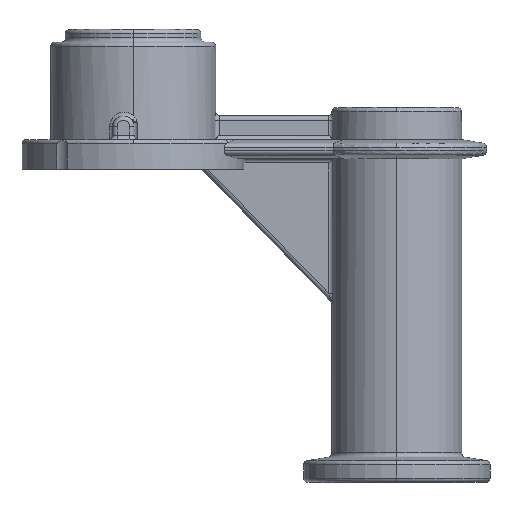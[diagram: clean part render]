
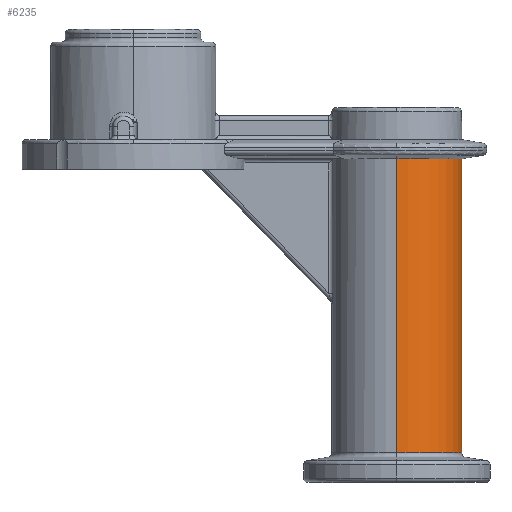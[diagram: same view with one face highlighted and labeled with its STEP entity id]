
A CAD part, top view. The second image highlights one B-rep face of the part: STEP entity #6235.
In plain terms, the highlighted cylindrical face has radius 15.303 mm (diameter 30.607 mm), a partial arc.
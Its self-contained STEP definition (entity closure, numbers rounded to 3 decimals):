
#56 = CARTESIAN_POINT ( 'NONE',  ( 4.703, 71.39, -14.567 ) ) ;
#505 = CARTESIAN_POINT ( 'NONE',  ( 1.86, 69.901, -15.197 ) ) ;
#534 = CARTESIAN_POINT ( 'NONE',  ( 3.767, 70.735, -14.834 ) ) ;
#568 = CARTESIAN_POINT ( 'NONE',  ( 7.707, 76.418, -13.221 ) ) ;
#723 = DIRECTION ( 'NONE',  ( 0., 1., 0. ) ) ;
#953 = CARTESIAN_POINT ( 'NONE',  ( 0., 69.667, -15.304 ) ) ;
#972 = CIRCLE ( 'NONE', #2219, 15.304 ) ;
#1194 = VECTOR ( 'NONE', #3623, 1000. ) ;
#1354 = CARTESIAN_POINT ( 'NONE',  ( 0., 0., 0. ) ) ;
#1388 = VERTEX_POINT ( 'NONE', #4193 ) ;
#1441 = VECTOR ( 'NONE', #5112, 1000. ) ;
#1505 = CARTESIAN_POINT ( 'NONE',  ( 3.161, 70.404, -14.975 ) ) ;
#1595 = CARTESIAN_POINT ( 'NONE',  ( 0., 69.667, -15.304 ) ) ;
#1889 = ORIENTED_EDGE ( 'NONE', *, *, #3698, .T. ) ;
#1894 = DIRECTION ( 'NONE',  ( 0., -1., 0. ) ) ;
#1936 = B_SPLINE_CURVE_WITH_KNOTS ( 'NONE', 3,
 ( #1595, #3561, #2959, #3906, #4894, #505, #5856, #5894, #1505, #3020, #534, #4454, #56, #4001, #3972, #4958, #3055, #568 ),
 .UNSPECIFIED., .F., .F.,
 ( 4, 2, 2, 2, 2, 2, 2, 2, 4 ),
 ( 0.011, 0.012, 0.013, 0.014, 0.015, 0.016, 0.017, 0.02, 0.023 ),
 .UNSPECIFIED. ) ;
#2053 = AXIS2_PLACEMENT_3D ( 'NONE', #1354, #1894, #2807 ) ;
#2056 = CARTESIAN_POINT ( 'NONE',  ( 0., 0., 15.304 ) ) ;
#2181 = LINE ( 'NONE', #2056, #1441 ) ;
#2219 = AXIS2_PLACEMENT_3D ( 'NONE', #2324, #5307, #3401 ) ;
#2324 = CARTESIAN_POINT ( 'NONE',  ( 0., 76.418, 0. ) ) ;
#2661 = VERTEX_POINT ( 'NONE', #3612 ) ;
#2807 = DIRECTION ( 'NONE',  ( 0., 0., -1. ) ) ;
#2837 = AXIS2_PLACEMENT_3D ( 'NONE', #5527, #723, #6079 ) ;
#2893 = ORIENTED_EDGE ( 'NONE', *, *, #4405, .F. ) ;
#2959 = CARTESIAN_POINT ( 'NONE',  ( 0.472, 69.679, -15.298 ) ) ;
#3000 = ORIENTED_EDGE ( 'NONE', *, *, #4625, .T. ) ;
#3020 = CARTESIAN_POINT ( 'NONE',  ( 3.569, 70.619, -14.883 ) ) ;
#3055 = CARTESIAN_POINT ( 'NONE',  ( 7.498, 75.501, -13.343 ) ) ;
#3205 = ORIENTED_EDGE ( 'NONE', *, *, #4723, .F. ) ;
#3401 = DIRECTION ( 'NONE',  ( 0., 0., 1. ) ) ;
#3561 = CARTESIAN_POINT ( 'NONE',  ( 0.235, 69.667, -15.304 ) ) ;
#3588 = CARTESIAN_POINT ( 'NONE',  ( 0., 0., -15.304 ) ) ;
#3612 = CARTESIAN_POINT ( 'NONE',  ( 0., 76.418, 15.304 ) ) ;
#3623 = DIRECTION ( 'NONE',  ( 0., -1., 0. ) ) ;
#3654 = EDGE_LOOP ( 'NONE', ( #2893, #4508, #1889, #3205, #3000 ) ) ;
#3698 = EDGE_CURVE ( 'NONE', #5142, #5515, #4452, .T. ) ;
#3727 = CYLINDRICAL_SURFACE ( 'NONE', #2053, 15.304 ) ;
#3782 = CARTESIAN_POINT ( 'NONE',  ( 0., 6.949, -15.304 ) ) ;
#3906 = CARTESIAN_POINT ( 'NONE',  ( 0.943, 69.727, -15.276 ) ) ;
#3972 = CARTESIAN_POINT ( 'NONE',  ( 6.267, 73.038, -13.971 ) ) ;
#4001 = CARTESIAN_POINT ( 'NONE',  ( 5.713, 72.324, -14.215 ) ) ;
#4193 = CARTESIAN_POINT ( 'NONE',  ( 7.707, 76.418, -13.221 ) ) ;
#4405 = EDGE_CURVE ( 'NONE', #2661, #1388, #972, .T. ) ;
#4439 = VERTEX_POINT ( 'NONE', #953 ) ;
#4452 = CIRCLE ( 'NONE', #2837, 15.304 ) ;
#4454 = CARTESIAN_POINT ( 'NONE',  ( 4.342, 71.108, -14.68 ) ) ;
#4508 = ORIENTED_EDGE ( 'NONE', *, *, #5477, .T. ) ;
#4625 = EDGE_CURVE ( 'NONE', #4439, #1388, #1936, .T. ) ;
#4723 = EDGE_CURVE ( 'NONE', #4439, #5515, #5663, .T. ) ;
#4894 = CARTESIAN_POINT ( 'NONE',  ( 1.174, 69.762, -15.26 ) ) ;
#4958 = CARTESIAN_POINT ( 'NONE',  ( 7.169, 74.644, -13.53 ) ) ;
#5112 = DIRECTION ( 'NONE',  ( 0., -1., 0. ) ) ;
#5142 = VERTEX_POINT ( 'NONE', #5744 ) ;
#5306 = FACE_OUTER_BOUND ( 'NONE', #3654, .T. ) ;
#5307 = DIRECTION ( 'NONE',  ( 0., 1., 0. ) ) ;
#5477 = EDGE_CURVE ( 'NONE', #2661, #5142, #2181, .T. ) ;
#5515 = VERTEX_POINT ( 'NONE', #3782 ) ;
#5527 = CARTESIAN_POINT ( 'NONE',  ( 0., 6.949, 0. ) ) ;
#5663 = LINE ( 'NONE', #3588, #1194 ) ;
#5744 = CARTESIAN_POINT ( 'NONE',  ( 0., 6.949, 15.304 ) ) ;
#5856 = CARTESIAN_POINT ( 'NONE',  ( 2.303, 70.037, -15.135 ) ) ;
#5894 = CARTESIAN_POINT ( 'NONE',  ( 2.949, 70.304, -15.018 ) ) ;
#6079 = DIRECTION ( 'NONE',  ( 0., 0., -1. ) ) ;
#6235 = ADVANCED_FACE ( 'NONE', ( #5306 ), #3727, .T. ) ;
